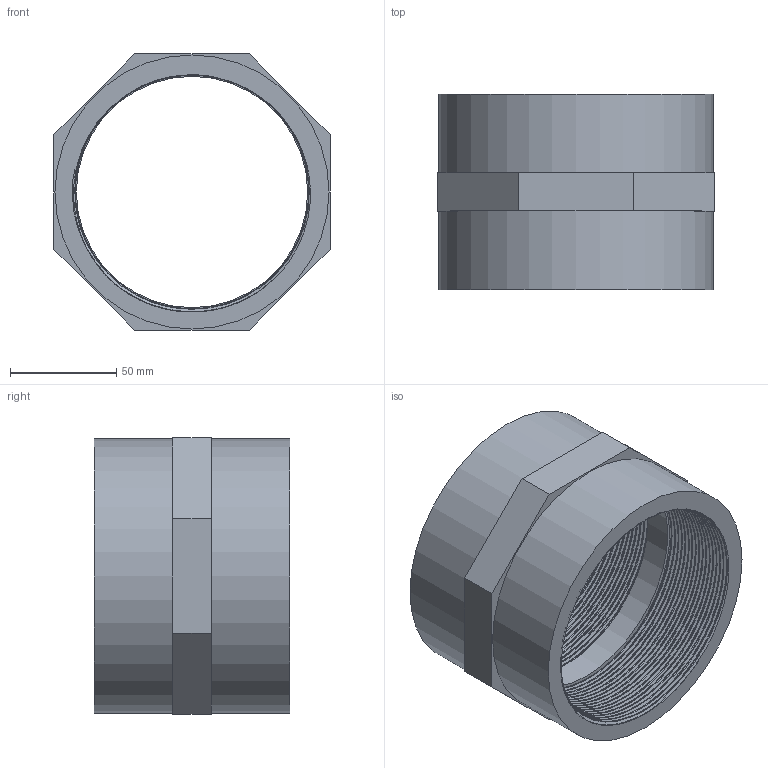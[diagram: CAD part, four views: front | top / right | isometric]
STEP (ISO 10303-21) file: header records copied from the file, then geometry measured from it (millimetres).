
FILE_DESCRIPTION(/* description */ ('PVC manicotto filettato BSP femmina'),/* implementation_level */ '2;1');
FILE_NAME(/* name */ 'C:\Users\POLYPIPE\Desktop\DATASET INVENTOR\LIBRERIA EFFAST\RACCORDI 3DxWEB\RER\3D_RERMAE\3D_RERMAE110L.stp',/* time_stamp */ '2018-01-19T16:38:07+01:00',/* author */ ('POLYPIPE'),/* organization */ ('Polypipe Italia'),/* preprocessor_version */ 'ST-DEVELOPER v16.1',/* originating_system */ 'Autodesk Inventor 2016',/* authorisation */ '');
FILE_SCHEMA (('CONFIG_CONTROL_DESIGN'));
Length unit declared in the file: millimetre
Products named in the file (1): 3D_RERMAE
Bounding box: 130 x 92 x 130 mm (x, y, z)
Volume: 326031.2 mm3; surface area: 98864.4 mm2
Topology: 1 solids, 1 shells, 27 faces, 63 edges, 42 vertices
Faces by surface type: plane 14, bspline 10, cylinder 3
Full cylindrical faces by diameter (mm): 108.872 x1, 129 x2
Entity records: 14078 total; most frequent: CARTESIAN_POINT 13522, ORIENTED_EDGE 120, DIRECTION 72, EDGE_CURVE 60, VERTEX_POINT 42, EDGE_LOOP 36, B_SPLINE_CURVE_WITH_KNOTS 30, FACE_OUTER_BOUND 27
